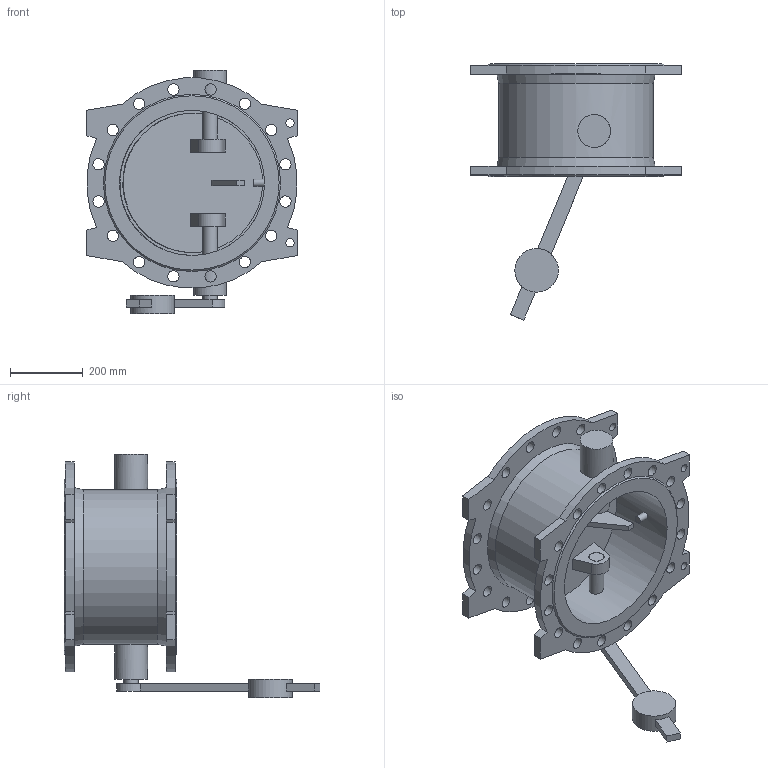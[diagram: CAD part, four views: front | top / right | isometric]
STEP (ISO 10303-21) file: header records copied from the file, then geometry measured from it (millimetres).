
FILE_DESCRIPTION(('STEP AP203'), '1');
FILE_NAME('Êëàïàí 015F.PV DN400 PN16 ñ ïðîòèâîâåñîì', '', ('UNSPECIFIED'), ('UNSPECIFIED'), 'ASCON STEP Converter 1.6', 'ASCON Math Kernel', '');
FILE_SCHEMA(('CONFIG_CONTROL_DESIGN'));
Length unit declared in the file: millimetre
Bounding box: 580 x 705 x 670 mm (x, y, z)
Volume: 16168756.9 mm3; surface area: 1963025.9 mm2
Topology: 1 solids, 1 shells, 128 faces, 321 edges, 213 vertices
Faces by surface type: plane 63, cylinder 58, cone 4, extrusion 2, bspline 1
Full cylindrical faces by diameter (mm): 20 x1, 23 x4, 31 x32, 40 x3, 42 x2, 90 x2, 120 x1, 400 x1, 426 x1
Entity records: 5469 total; most frequent: CARTESIAN_POINT 1303, DIRECTION 626, ORIENTED_EDGE 532, EDGE_LOOP 278, EDGE_CURVE 266, AXIS2_PLACEMENT_3D 247, VERTEX_POINT 212, FACE_BOUND 172
